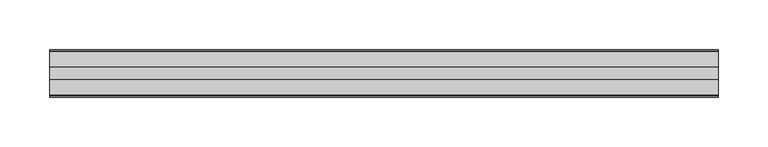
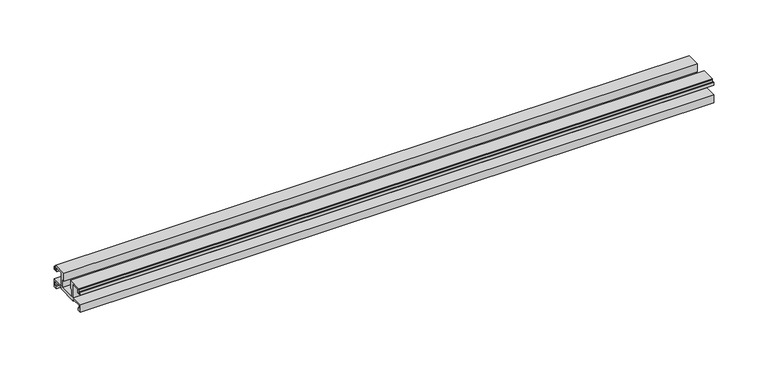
"""IFC4 building model written with IfcOpenShell, lengths in millimetres: proxy geometry, Weiku - Montante - Acoplamento vidro : Weiku - Montante - Acoplamento vidro."""

from ifc_helpers import new_model, si_unit, frame, origin, place, context, project, spatial, polyline, outline, extrude, source, transform, mapped, element, save


def generic_models_644c4c10(model_context):
    return source(origin(), model_context, "Body", "SweptSolid", [
        extrude(outline(polyline([(-35.405, 5.1494), (-35.405, 6.8004), (-45.741, 6.8004), (-45.741, 2.6094), (-43.8784, 2.6094), (-43.8784, 0.0), (-47.9014508, 0.0), (-47.9014508, 8.79), (-34.946, 8.79), (-34.946, 23.3104), (-43.5397, 23.3104), (-43.5397, 19.204), (-47.9, 19.204), (-47.9, 22.8024), (-46.9264, 22.8024), (-46.9264, 20.3894), (-44.725, 20.3894), (-44.725, 23.9454), (-45.5264504, 23.9454), (-45.5264504, 25.3), (-30.4164, 25.3), (-30.4164, 16.283), (-32.4484, 16.283), (-32.4484, 8.8), (-15.4516, 8.8), (-15.4516, 16.283), (-17.4836, 16.283), (-17.4836, 25.3), (-2.3735496, 25.3), (-2.3735496, 23.9454), (-3.175, 23.9454), (-3.175, 20.3894), (-0.9736, 20.3894), (-0.9736, 22.8024), (0.0, 22.8024), (0.0, 19.204), (-4.3603, 19.204), (-4.3603, 23.3104), (-12.954, 23.3104), (-12.954, 8.79), (0.0014508, 8.79), (0.0014508, 0.0), (-4.0216, 0.0), (-4.0216, 2.6094), (-2.159, 2.6094), (-2.159, 6.8004), (-12.495, 6.8004), (-12.495, 5.1494), (-35.405, 5.1494)])), frame((-337.1, 0.0, 0.0), z_axis=(1.0, 0.0, 0.0), x_axis=(0.0, 1.0, 0.0)), (0.0, 0.0, 1.0), 674.2),
    ])


if __name__ == "__main__":
    model = new_model("IFC4")
    model_context = context("Model", 3, world=origin())
    ifc_project = project(units=[si_unit("LENGTHUNIT", "METRE", prefix="MILLI")], contexts=[model_context])
    site = spatial("IfcSite", under=ifc_project)
    building = spatial("IfcBuilding", under=site)
    placement = place(None, origin())
    generic_models_shape = generic_models_644c4c10(model_context)
    element("IfcBuildingElementProxy", 1, Name="Weiku - Montante - Acoplamento vidro : Weiku - Montante - Acoplamento vidro", ObjectType="Weiku - Montante - Acoplamento vidro : Weiku - Montante - Acoplamento vidro", at=placement, inside=building, context=model_context, shape_type="MappedRepresentation", body=[
        mapped(generic_models_shape, transform((0.0, 0.0, 0.0), x_axis=(1.0, 0.0, 0.0), y_axis=(0.0, 1.0, 0.0), z_axis=(0.0, 0.0, 1.0))),
    ])
    save(model, "model.ifc")
